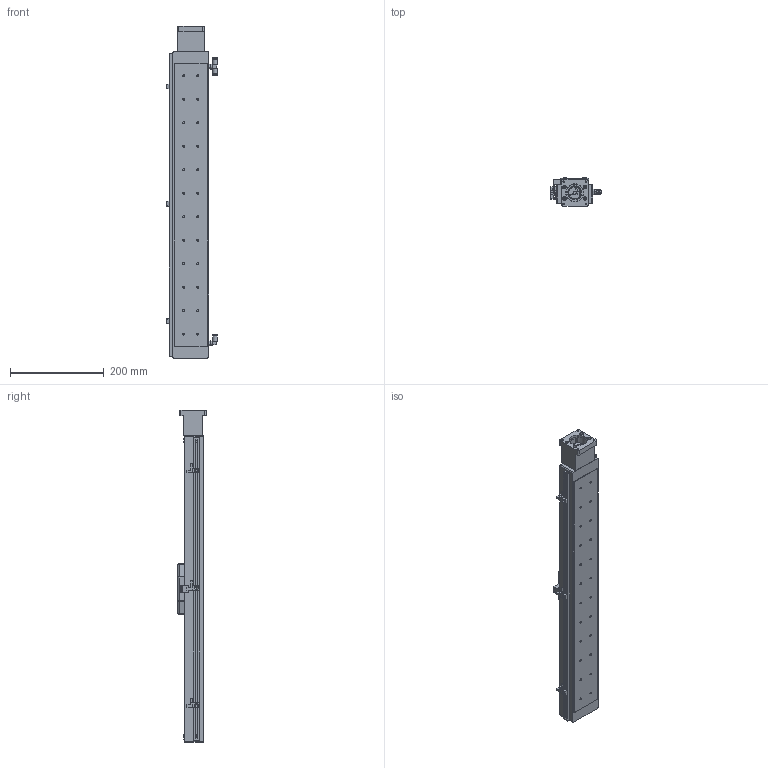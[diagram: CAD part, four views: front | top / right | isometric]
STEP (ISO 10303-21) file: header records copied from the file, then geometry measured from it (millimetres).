
FILE_DESCRIPTION((''),'2;1');
FILE_NAME('E:\catalogue and flyer\actuator catalogue 2015\dwg fr wg\UIA076CR9DC\UIA076CR9DC-stp file 05May16\UIA076CR9DC-500-R12_ _-M23-P13-C10-S.stp','2016-05-05T13:22:27',('h029'),(''),'Autodesk Inventor 11','Autodesk Inventor 11','');
FILE_SCHEMA(('AUTOMOTIVE_DESIGN { 1 0 10303 214 1 1 1 1 }'));
Length unit declared in the file: millimetre
Products named in the file (14): UIA076CR9DC-500; UIA076CR9DC-body; carriage-076CR; SOH25C; side 2; side 1; centre piece; 26-100 0071 sensor flag; GWL4-M5; GWT4-M5; 26-100 0110-M23; Sensor rail; Sensor Bracket ; Sensor
Assembly tree (17 placements, depth 3):
  UIA076CR9DC-500
    UIA076CR9DC-body
    carriage-076CR
    SOH25C
      side 2
      side 1
      centre piece
    26-100 0071 sensor flag
    GWL4-M5
    GWT4-M5
    26-100 0110-M23
    Sensor rail
    Sensor Bracket   x3
    Sensor  x3
Bounding box: 108.1 x 61 x 707 mm (x, y, z)
Volume: 2184918.4 mm3; surface area: 268305.1 mm2
Topology: 18 solids, 18 shells, 705 faces, 1806 edges, 1167 vertices
Faces by surface type: plane 355, bspline 172, cylinder 152, sphere 16, cone 10
Full cylindrical faces by diameter (mm): 2.459 x4, 2.5 x3, 8 x2, 25.5 x3, 30 x1, 37 x1, 38.1 x1
Entity records: 19949 total; most frequent: CARTESIAN_POINT 5839, DIRECTION 2797, ORIENTED_EDGE 2706, EDGE_CURVE 1353, AXIS2_PLACEMENT_3D 994, VERTEX_POINT 937, EDGE_LOOP 846, VECTOR 809
